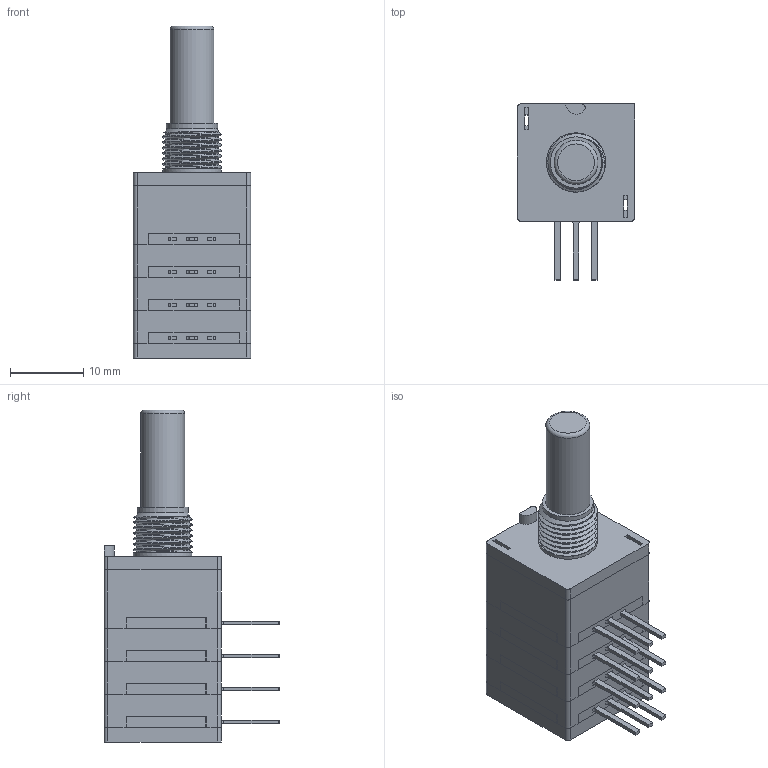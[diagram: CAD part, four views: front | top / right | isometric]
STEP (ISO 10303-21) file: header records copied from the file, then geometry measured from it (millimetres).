
FILE_DESCRIPTION(('FreeCAD Model'),'2;1');
FILE_NAME('Open CASCADE Shape Model','2023-03-24T11:10:08',(''),(''), 'Open CASCADE STEP processor 7.6','FreeCAD','Unknown');
FILE_SCHEMA(('AUTOMOTIVE_DESIGN { 1 0 10303 214 1 1 1 1 }'));
Length unit declared in the file: millimetre
Products named in the file (1): Fusion019
Bounding box: 16 x 24 x 45.3 mm (x, y, z)
Volume: 6931.8 mm3; surface area: 3664.3 mm2
Topology: 1 solids, 7 shells, 397 faces, 981 edges, 597 vertices
Faces by surface type: plane 289, cylinder 81, bspline 24, cone 2, torus 1
Full cylindrical faces by diameter (mm): 4.2 x4, 6 x2, 6.02 x2, 7 x1, 8 x1, 8.08 x6
Entity records: 31200 total; most frequent: CARTESIAN_POINT 10823, DIRECTION 3119, LINE 2002, VECTOR 2002, ORIENTED_EDGE 1960, PCURVE 1960, DEFINITIONAL_REPRESENTATION 1960, EDGE_CURVE 980
